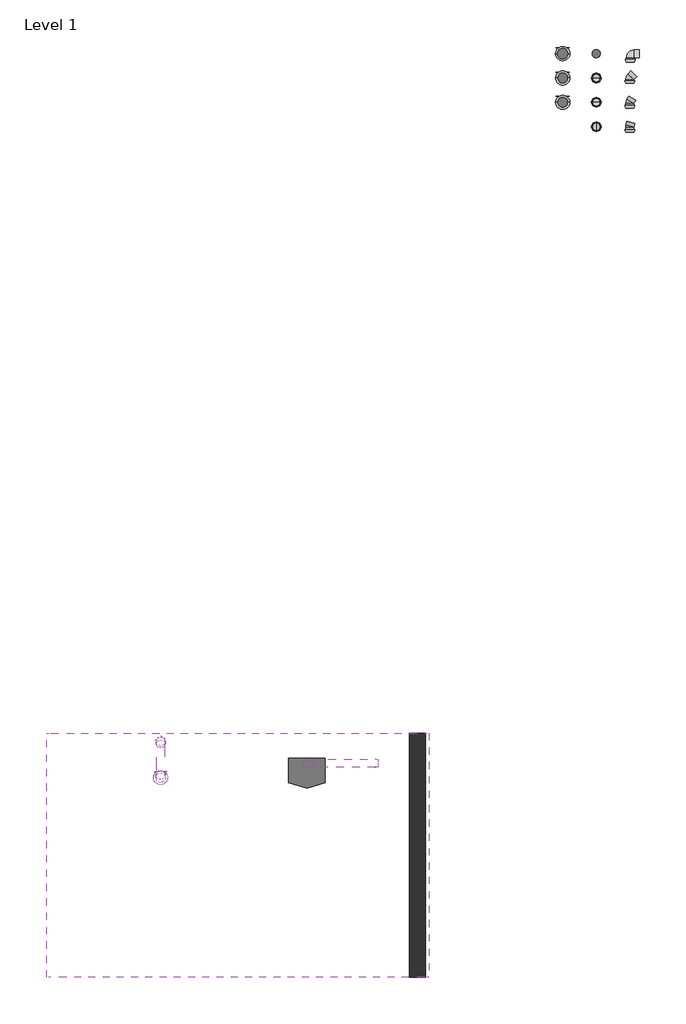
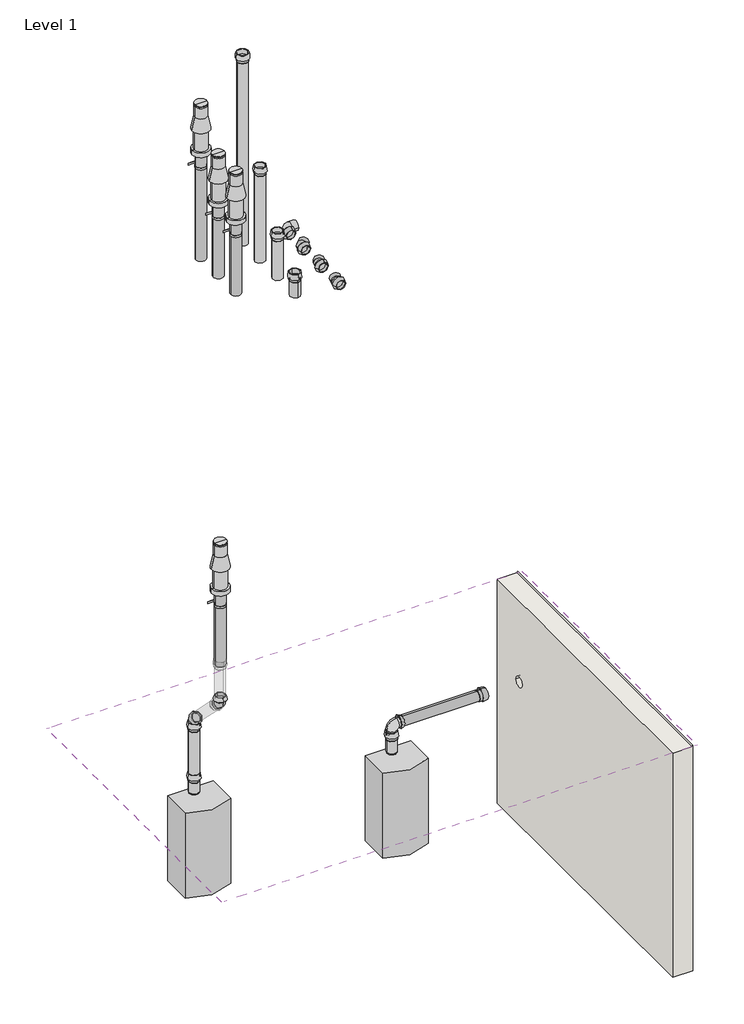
# One storey, incomplete: 10 duct segments, 7 duct fittings, 4 air terminals, 2 proxies, 1 roof, 1 wall.
"""IFC4 building model written with IfcOpenShell, lengths in millimetres."""

from ifc_helpers import new_model, si_unit, frame, origin, place, context, project, spatial, polyline, circle_curve, ellipse_curve, transform, mapped, element, save
from ifc_brep_helpers import plane_surface, revolved_surface, advanced_brep
from components import air_terminal_4db5a4d0, air_terminal_e32a4596, example_boiler_example_boiler_dbbaee7f, duct_fitting_80461899, duct_fitting_0f7bfee0, duct_fitting_1aa9c58e, duct_fitting_9fb83e1a, duct_fitting_0b1f5d79, duct_fitting_4940caac, duct_segment_2794da40, duct_segment_abc43e96, duct_segment_5e3a6c2d, duct_segment_923477a0, duct_segment_c58fb733, duct_segment_8274237e, duct_segment_3d97c253, duct_segment_f60221c1, duct_segment_3ec61917

model = new_model("IFC4")

# Units and contexts
model_context = context("Model", 3, world=origin())
ifc_project = project(units=[si_unit("LENGTHUNIT", "METRE", prefix="MILLI")], contexts=[model_context])

# Site, building, storey
site = spatial("IfcSite", under=ifc_project)
building = spatial("IfcBuilding", under=site)
storey = spatial("IfcBuildingStorey", under=building, Name="Level 1", Elevation=0.0)

# Air terminals
placement = place(None, origin())
air_terminal_shape = air_terminal_4db5a4d0(model_context)
element("IfcAirTerminal", 1, ObjectType="NLRS_57_AIR_WPB_Skyline_M&G : EasySafe Skyline 3000 PP 60/100 Zwart", at=placement, inside=storey, context=model_context, shape_type="MappedRepresentation", body=[
    mapped(air_terminal_shape, transform((-24817.1452079, -725.8268006, 750.0), x_axis=(1.0, 0.0, 0.0), y_axis=(0.0, 1.0, 0.0), z_axis=(0.0, 0.0, 1.0))),
])
element("IfcAirTerminal", 2, ObjectType="NLRS_57_AIR_WPB_Skyline_M&G : EasySafe Skyline 3000 PP 60/100 Zwart", at=placement, inside=storey, context=model_context, shape_type="MappedRepresentation", body=[
    mapped(air_terminal_shape, transform((-29757.7300673, -9017.5537383, 3630.1544214), x_axis=(1.0, 0.0, 0.0), y_axis=(0.0, 1.0, 0.0), z_axis=(0.0, 0.0, 1.0))),
])
element("IfcAirTerminal", 3, ObjectType="NLRS_57_AIR_WPB_Skyline_M&G : EasySafe Skyline 3000 PP 60/100 Terra", at=placement, inside=storey, context=model_context, shape_type="MappedRepresentation", body=[
    mapped(air_terminal_shape, transform((-24817.1452079, -427.1818456, 750.0), x_axis=(1.0, 0.0, 0.0), y_axis=(0.0, 1.0, 0.0), z_axis=(0.0, 0.0, 1.0))),
])
air_terminal_2_shape = air_terminal_e32a4596(model_context)
element("IfcAirTerminal", 4, ObjectType="NLRS_57_AIR_WPB_Skyline_M&G : EasySafe Skyline 3000 PP 60/100 XL Zwart", at=placement, inside=storey, context=model_context, shape_type="MappedRepresentation", body=[
    mapped(air_terminal_2_shape, transform((-24817.1452079, -128.5368906, 1094.0), x_axis=(1.0, 0.0, 0.0), y_axis=(0.0, 1.0, 0.0), z_axis=(0.0, 0.0, 1.0))),
])

# Proxies
example_boiler_example_boiler_shape = example_boiler_example_boiler_dbbaee7f(model_context)
element("IfcBuildingElementProxy", 5, Name="Example boiler : Example boiler", ObjectType="Example boiler : Example boiler", at=placement, inside=storey, context=model_context, shape_type="MappedRepresentation", body=[
    mapped(example_boiler_example_boiler_shape, transform((-29982.7339965, -8507.1441635, 360.8), x_axis=(1.0, 0.0, 0.0), y_axis=(0.0, 1.0, 0.0), z_axis=(0.0, 0.0, 1.0))),
])
element("IfcBuildingElementProxy", 6, Name="Example boiler : Example boiler", ObjectType="Example boiler : Example boiler", at=placement, inside=storey, context=model_context, shape_type="MappedRepresentation", body=[
    mapped(example_boiler_example_boiler_shape, transform((-28185.8591128, -8780.8025701, 315.7), x_axis=(1.0, 0.0, 0.0), y_axis=(0.0, 1.0, 0.0), z_axis=(0.0, 0.0, 1.0))),
])

# Duct fittings
duct_fitting_shape = duct_fitting_80461899(model_context)
element("IfcDuctFitting", 7, ObjectType="NLRS_57_DUF_Easysafe_bocht_M&G : DN100 / 90°", at=placement, inside=storey, context=model_context, shape_type="MappedRepresentation", body=[
    mapped(duct_fitting_shape, transform((-23987.3836042, -128.5368906, 0.0), x_axis=(0.0, 1.0, 0.0), y_axis=(1.0, 0.0, 0.0), z_axis=(0.0, 0.0, -1.0))),
])
duct_fitting_2_shape = duct_fitting_0f7bfee0(model_context)
element("IfcDuctFitting", 8, ObjectType="NLRS_57_DUF_Easysafe_bocht_M&G : DN100 / 45°", at=placement, inside=storey, context=model_context, shape_type="MappedRepresentation", body=[
    mapped(duct_fitting_2_shape, transform((-23992.3438715, -424.4717557, 0.0), x_axis=(0.0, 1.0, 0.0), y_axis=(1.0, 0.0, 0.0), z_axis=(0.0, 0.0, -1.0))),
])
duct_fitting_3_shape = duct_fitting_1aa9c58e(model_context)
element("IfcDuctFitting", 9, ObjectType="NLRS_57_DUF_Easysafe_bocht_M&G : DN100 / 30°", at=placement, inside=storey, context=model_context, shape_type="MappedRepresentation", body=[
    mapped(duct_fitting_3_shape, transform((-23992.3438715, -725.8268006, 0.0), x_axis=(0.0, 1.0, 0.0), y_axis=(1.0, 0.0, 0.0), z_axis=(0.0, 0.0, -1.0))),
])
duct_fitting_4_shape = duct_fitting_9fb83e1a(model_context)
element("IfcDuctFitting", 10, ObjectType="NLRS_57_DUF_Easysafe_bocht_M&G : DN100 / 15°", at=placement, inside=storey, context=model_context, shape_type="MappedRepresentation", body=[
    mapped(duct_fitting_4_shape, transform((-23992.3438715, -1024.4717557, 0.0), x_axis=(0.0, 1.0, 0.0), y_axis=(1.0, 0.0, 0.0), z_axis=(0.0, 0.0, -1.0))),
])
duct_fitting_5_shape = duct_fitting_0b1f5d79(model_context)
element("IfcDuctFitting", 11, ObjectType="NLRS_57_DUF_Easysafe_bocht_M&G : DN100 / 45°", at=placement, inside=storey, context=model_context, shape_type="MappedRepresentation", body=[
    mapped(duct_fitting_5_shape, transform((-29757.7339965, -8567.1441635, 2012.7753293), x_axis=(0.0, 0.0, 1.0), y_axis=(8.723787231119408e-06, -0.9999999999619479, 0.0), z_axis=(0.9999999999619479, 8.723787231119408e-06, 0.0))),
])
element("IfcDuctFitting", 12, ObjectType="NLRS_57_DUF_Easysafe_bocht_M&G : DN100 / 45°", at=placement, inside=storey, context=model_context, shape_type="MappedRepresentation", body=[
    mapped(duct_fitting_5_shape, transform((-29757.7300673, -9017.5537383, 2463.184904), x_axis=(6.168649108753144e-06, -0.7071067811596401, 0.707106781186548), y_axis=(-6.168649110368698e-06, 0.707106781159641, 0.707106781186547), z_axis=(-0.9999999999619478, -8.723787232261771e-06, 0.0))),
])
duct_fitting_6_shape = duct_fitting_4940caac(model_context)
element("IfcDuctFitting", 13, ObjectType="NLRS_57_DUF_Easysafe_bocht_M&G : DN100 / 90°", at=placement, inside=storey, context=model_context, shape_type="MappedRepresentation", body=[
    mapped(duct_fitting_6_shape, transform((-27960.8591128, -8840.8025701, 1494.377412), x_axis=(0.0, 0.0, 1.0), y_axis=(0.9999999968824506, -7.896264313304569e-05, 0.0), z_axis=(7.896264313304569e-05, 0.9999999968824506, 0.0))),
])

# Duct segments
duct_segment_shape = duct_segment_2794da40(model_context)
element("IfcDuctSegment", 14, ObjectType="NLRS_57_AIR_DUF_Easysafe verl pijp PP_M&G : Easysafe verlengpijp", at=placement, inside=storey, context=model_context, shape_type="MappedRepresentation", body=[
    mapped(duct_segment_shape, transform((-24404.7445397, -725.8268006, 0.0), x_axis=(0.0, 0.0, 1.0), y_axis=(1.0, 0.0, 0.0), z_axis=(0.0, 1.0, 0.0))),
])
duct_segment_2_shape = duct_segment_abc43e96(model_context)
element("IfcDuctSegment", 15, ObjectType="NLRS_57_AIR_DUF_Easysafe verl pijp PP_M&G : Easysafe verlengpijp", at=placement, inside=storey, context=model_context, shape_type="MappedRepresentation", body=[
    mapped(duct_segment_2_shape, transform((-24404.7445397, -427.1818456, 0.0), x_axis=(0.0, 0.0, 1.0), y_axis=(1.0, 0.0, 0.0), z_axis=(0.0, 1.0, 0.0))),
])
duct_segment_3_shape = duct_segment_5e3a6c2d(model_context)
element("IfcDuctSegment", 16, ObjectType="NLRS_57_AIR_DUF_Easysafe verl pijp PP_M&G : Easysafe verlengpijp", at=placement, inside=storey, context=model_context, shape_type="MappedRepresentation", body=[
    mapped(duct_segment_3_shape, transform((-24404.7445397, -128.5368906, 0.0), x_axis=(0.0, 0.0, 1.0), y_axis=(1.0, 0.0, 0.0), z_axis=(0.0, 1.0, 0.0))),
])
duct_segment_4_shape = duct_segment_923477a0(model_context)
element("IfcDuctSegment", 17, ObjectType="NLRS_57_AIR_DUF_Easysafe verl pijp PP_M&G : Easysafe verlengpijp", at=placement, inside=storey, context=model_context, shape_type="MappedRepresentation", body=[
    mapped(duct_segment_4_shape, transform((-24404.7445397, -1024.4717557, 0.0), x_axis=(0.0, 0.0, 1.0), y_axis=(0.0, -1.0, 0.0), z_axis=(1.0, 0.0, 0.0))),
])
duct_segment_5_shape = duct_segment_c58fb733(model_context)
element("IfcDuctSegment", 18, ObjectType="NLRS_57_AIR_DUF_Easysafe verl pijp PP_M&G : Easysafe verlengpijp", at=placement, inside=storey, context=model_context, shape_type="MappedRepresentation", body=[
    mapped(duct_segment_5_shape, transform((-29757.7339965, -8567.1441635, 1260.8), x_axis=(0.0, 0.0, 1.0), y_axis=(0.9999999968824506, -7.896264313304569e-05, 0.0), z_axis=(7.896264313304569e-05, 0.9999999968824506, 0.0))),
])
duct_segment_6_shape = duct_segment_8274237e(model_context)
element("IfcDuctSegment", 19, ObjectType="NLRS_57_AIR_DUF_Easysafe verl pijp PP_M&G : Easysafe verlengpijp", at=placement, inside=storey, context=model_context, shape_type="MappedRepresentation", body=[
    mapped(duct_segment_6_shape, transform((-29757.7339965, -8567.1441635, 1410.8), x_axis=(0.0, 0.0, 1.0), y_axis=(0.9999999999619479, 8.723787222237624e-06, 0.0), z_axis=(-8.723787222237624e-06, 0.9999999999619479, 0.0))),
])
element("IfcDuctSegment", 20, ObjectType="NLRS_57_AIR_DUF_Easysafe verl pijp PP_M&G : Easysafe verlengpijp", at=placement, inside=storey, context=model_context, shape_type="MappedRepresentation", body=[
    mapped(duct_segment_6_shape, transform((-29757.7337806, -8591.8929008, 2037.5240666), x_axis=(6.168649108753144e-06, -0.7071067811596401, 0.707106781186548), y_axis=(-6.1686491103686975e-06, 0.707106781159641, 0.707106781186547), z_axis=(-0.9999999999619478, -8.723787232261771e-06, 0.0))),
])
duct_segment_7_shape = duct_segment_3d97c253(model_context)
element("IfcDuctSegment", 21, ObjectType="NLRS_57_AIR_DUF_Easysafe verl pijp PP_M&G : Easysafe verlengpijp", at=placement, inside=storey, context=model_context, shape_type="MappedRepresentation", body=[
    mapped(duct_segment_7_shape, transform((-29757.7300673, -9017.5537383, 2498.184904), x_axis=(0.0, 0.0, 1.0), y_axis=(8.723787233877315e-06, -0.9999999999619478, 0.0), z_axis=(0.9999999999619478, 8.723787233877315e-06, 0.0))),
])
duct_segment_8_shape = duct_segment_f60221c1(model_context)
element("IfcDuctSegment", 22, ObjectType="NLRS_57_AIR_DUF_Easysafe verl pijp PP_M&G : Easysafe verlengpijp", at=placement, inside=storey, context=model_context, shape_type="MappedRepresentation", body=[
    mapped(duct_segment_8_shape, transform((-27960.8591128, -8840.8025701, 1215.7), x_axis=(0.0, 0.0, 1.0), y_axis=(0.9999999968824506, -7.896264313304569e-05, 0.0), z_axis=(7.896264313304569e-05, 0.9999999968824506, 0.0))),
])
duct_segment_9_shape = duct_segment_3ec61917(model_context)
element("IfcDuctSegment", 23, ObjectType="NLRS_57_AIR_DUF_Easysafe verl pijp PP_M&G : Easysafe verlengpijp", at=placement, inside=storey, context=model_context, shape_type="MappedRepresentation", body=[
    mapped(duct_segment_9_shape, transform((-27890.859113, -8840.8080975, 1494.377412), x_axis=(0.9999999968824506, -7.896264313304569e-05, 0.0), y_axis=(0.0, 0.0, 1.0000000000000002), z_axis=(-7.896264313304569e-05, -0.9999999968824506, 0.0))),
])

# Roof
element("IfcRoof", 24, ObjectType="Roof 1", at=placement, inside=storey, context=model_context, shape_type="AdvancedBrep", body=[
    advanced_brep(
    [(-30908.768798, -11470.1242334, 2344.3375673), (-30908.768798, -8470.1242334, 2344.3375673), (-28808.768798, -8470.1242334, 3556.7731326), (-28808.768798, -11470.1242334, 3556.7731326), (-29810.2324203, -9017.5537383, 2978.5778407), (-29705.2277142, -9017.5537383, 3039.202336), (-26708.768798, -8470.1242334, 2344.3375673), (-26708.768798, -11470.1242334, 2344.3375673), (-31158.768798, -11470.1242334, 2430.9401077), (-28808.768798, -11470.1242334, 3787.7132403), (-28808.768798, -8470.1242334, 3787.7132403), (-31158.768798, -8470.1242334, 2430.9401077), (-29705.2277142, -9017.5537383, 3270.1424437), (-29810.2324203, -9017.5537383, 3209.5179484), (-26458.768798, -11470.1242334, 2430.9401077), (-26458.768798, -8470.1242334, 2430.9401077), (-31108.768798, -11470.1242334, 2344.3375673), (-31108.768798, -8470.1242334, 2344.3375673), (-26508.768798, -8470.1242334, 2344.3375673), (-26508.768798, -11470.1242334, 2344.3375673)],
    [
        (0, 1),
        (1, 2),
        (2, 3),
        (3, 0),
        (4, 5, ellipse_curve(frame((-29757.7300673, -9017.5537383, 3008.8900884), z_axis=(-0.5000000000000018, 0.0, 0.8660254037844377), x_axis=(0.8660254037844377, 0.0, 0.5000000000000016)), 60.6244954, 52.5023531)),
        (5, 4, ellipse_curve(frame((-29757.7300673, -9017.5537383, 3008.8900884), z_axis=(-0.5000000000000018, 0.0, 0.8660254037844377), x_axis=(0.8660254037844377, 0.0, 0.5000000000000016)), 60.6244954, 52.5023531)),
        (2, 6),
        (6, 7),
        (7, 3),
        (8, 9),
        (9, 10),
        (10, 11),
        (11, 8),
        (12, 13, ellipse_curve(frame((-29757.7300673, -9017.5537383, 3239.830196), z_axis=(0.5000000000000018, 0.0, -0.8660254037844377), x_axis=(0.8660254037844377, 0.0, 0.5000000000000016)), 60.6244954, 52.5023531)),
        (13, 12, ellipse_curve(frame((-29757.7300673, -9017.5537383, 3239.830196), z_axis=(0.5000000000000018, 0.0, -0.8660254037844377), x_axis=(0.8660254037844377, 0.0, 0.5000000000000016)), 60.6244954, 52.5023531)),
        (9, 14),
        (14, 15),
        (15, 10),
        (0, 16),
        (16, 17),
        (17, 1),
        (6, 18),
        (18, 19),
        (19, 7),
        (17, 11),
        (15, 18),
        (19, 14),
        (8, 16),
        (4, 13),
        (12, 5),
    ],
    [
        plane_surface(frame((-30908.768798, -8470.1242334, 2344.3375673), z_axis=(0.5000000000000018, 0.0, -0.8660254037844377), x_axis=(0.0, -1.0, 0.0))),
        plane_surface(frame((-26708.768798, -11470.1242334, 2344.3375673), z_axis=(-0.5000000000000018, 0.0, -0.8660254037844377), x_axis=(0.0, 1.0, 0.0))),
        plane_surface(frame((-31158.768798, -8470.1242334, 2430.9401077), z_axis=(-0.5000000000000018, 0.0, 0.8660254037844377), x_axis=(0.0, -1.0, 0.0))),
        plane_surface(frame((-26458.768798, -11470.1242334, 2430.9401077), z_axis=(0.5000000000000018, 0.0, 0.8660254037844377), x_axis=(0.0, 1.0, 0.0))),
        plane_surface(frame((-31158.768798, -8470.1242334, 2344.3375673), z_axis=(0.0, 0.0, -1.0), x_axis=(-1.0, 0.0, 0.0))),
        plane_surface(frame((-26458.768798, -11470.1242334, 2344.3375673), z_axis=(0.0, 0.0, -1.0), x_axis=(-1.0, 0.0, 0.0))),
        plane_surface(frame((-26458.768798, -8470.1242334, 0.0), z_axis=(0.0, 1.0, 0.0), x_axis=(-1.0, 0.0, 0.0))),
        plane_surface(frame((-31158.768798, -11470.1242334, 0.0), z_axis=(0.0, -1.0, 0.0), x_axis=(1.0, 0.0, 0.0))),
        plane_surface(frame((-31158.768798, -8470.1242334, 2430.9401077), z_axis=(-0.8660254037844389, 0.0, -0.49999999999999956), x_axis=(0.0, -1.0, 0.0))),
        plane_surface(frame((-26458.768798, -11470.1242334, 2430.9401077), z_axis=(0.8660254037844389, 0.0, -0.49999999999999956), x_axis=(0.0, 1.0, 0.0))),
        revolved_surface(polyline([(-29705.2277142, -9017.5537383, 3270.1424437), (-29705.2277142, -9017.5537383, 2978.5778407)]), (-29757.7300673, -9017.5537383, 2864.1544214), (0.0, 0.0, 1.0)),
    ],
    [
        (0, [[1, 2, 3, 4], [5, 6]]),
        (1, [[-3, 7, 8, 9]]),
        (2, [[10, 11, 12, 13], [14, 15]]),
        (3, [[-11, 16, 17, 18]]),
        (4, [[-1, 19, 20, 21]]),
        (5, [[-8, 22, 23, 24]]),
        (6, [[-2, -21, 25, -12, -18, 26, -22, -7]]),
        (7, [[-4, -9, -24, 27, -16, -10, 28, -19]]),
        (8, [[-13, -25, -20, -28]]),
        (9, [[-17, -27, -23, -26]]),
        (10, [[29, -14, 30, -5]]),
        (10, [[-29, -6, -30, -15]]),
    ],
),
])

# Wall
element("IfcWall", 25, ObjectType="Generic - 200mm", at=placement, inside=storey, context=model_context, shape_type="AdvancedBrep", body=[
    advanced_brep(
    [(-26500.7494033, -11470.1242334, 0.0), (-26500.7494033, -8470.1242334, 0.0), (-26500.7494033, -8470.1242334, 2358.2275664), (-26500.7494033, -11470.1242334, 2358.2275664), (-26500.7494033, -8788.3722238, 1494.377412), (-26500.7494033, -8893.3722238, 1494.377412), (-26700.7494033, -8470.1242334, 0.0), (-26700.7494033, -11470.1242334, 0.0), (-26700.7494033, -11470.1242334, 2344.3375673), (-26700.7494033, -8470.1242334, 2344.3375673), (-26700.7494033, -8893.3722238, 1494.377412), (-26700.7494033, -8788.3722238, 1494.377412), (-26508.768798, -8470.1242334, 2344.3375673), (-26508.768798, -11470.1242334, 2344.3375673)],
    [
        (0, 1),
        (1, 2),
        (2, 3),
        (3, 0),
        (4, 5, circle_curve(frame((-26500.7494033, -8840.8722238, 1494.377412), z_axis=(-1.0, 0.0, 0.0), x_axis=(0.0, 1.0, 0.0)), 52.5)),
        (5, 4, circle_curve(frame((-26500.7494033, -8840.8722238, 1494.377412), z_axis=(-1.0, 0.0, 0.0), x_axis=(0.0, 1.0, 0.0)), 52.5)),
        (6, 7),
        (7, 8),
        (8, 9),
        (9, 6),
        (10, 11, circle_curve(frame((-26700.7494033, -8840.8722238, 1494.377412), z_axis=(1.0, 0.0, 0.0), x_axis=(0.0, 1.0, 0.0)), 52.5)),
        (11, 10, circle_curve(frame((-26700.7494033, -8840.8722238, 1494.377412), z_axis=(1.0, 0.0, 0.0), x_axis=(0.0, 1.0, 0.0)), 52.5)),
        (0, 7),
        (6, 1),
        (9, 12),
        (12, 2),
        (3, 13),
        (13, 8),
        (13, 12),
        (4, 11),
        (10, 5),
    ],
    [
        plane_surface(frame((-26500.7494033, -14486.2629347, 0.0), z_axis=(1.0, 0.0, 0.0), x_axis=(0.0, 1.0, 0.0))),
        plane_surface(frame((-26700.7494033, -14486.2629347, 0.0), z_axis=(-1.0, 0.0, 0.0), x_axis=(0.0, -1.0, 0.0))),
        plane_surface(frame((-26500.7494033, -11470.1242334, 0.0), z_axis=(0.0, 0.0, -1.0), x_axis=(-1.0, 0.0, 0.0))),
        plane_surface(frame((-26500.7494033, -8470.1242334, 0.0), z_axis=(0.0, 1.0, 0.0), x_axis=(-1.0, 0.0, 0.0))),
        plane_surface(frame((-26500.7494033, -11470.1242334, 2679.0293052), z_axis=(0.0, -1.0, 0.0), x_axis=(-1.0, 0.0, 0.0))),
        plane_surface(frame((-26458.768798, -11470.1242334, 2344.3375673), z_axis=(0.0, 0.0, 1.0), x_axis=(-1.0, 0.0, 0.0))),
        plane_surface(frame((-26458.768798, -11470.1242334, 2430.9401077), z_axis=(-0.8660254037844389, 0.0, 0.49999999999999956), x_axis=(0.0, 1.0, 0.0))),
        revolved_surface(polyline([(-26500.7494033, -8788.3722238, 1494.377412), (-26700.7494033, -8788.3722238, 1494.377412)]), (-26700.7494033, -8840.8722238, 1494.377412), (1.0, 0.0, 0.0)),
    ],
    [
        (0, [[1, 2, 3, 4], [5, 6]]),
        (1, [[7, 8, 9, 10], [11, 12]]),
        (2, [[-1, 13, -7, 14]]),
        (3, [[-2, -14, -10, 15, 16]]),
        (4, [[-4, 17, 18, -8, -13]]),
        (5, [[-9, -18, 19, -15]]),
        (6, [[-16, -19, -17, -3]]),
        (7, [[20, -11, 21, -5]]),
        (7, [[-20, -6, -21, -12]]),
    ],
),
])

save(model, "model.ifc")
